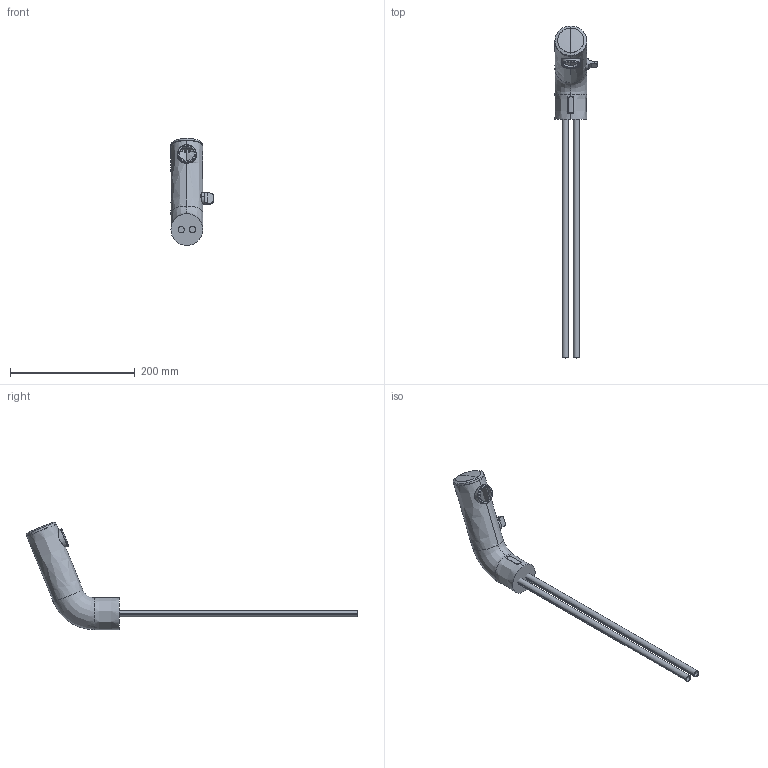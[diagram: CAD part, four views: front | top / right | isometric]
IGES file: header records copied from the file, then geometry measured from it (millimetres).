
Start section:  PTC IGES file: 28022_web.igs
Global section: file name: 28022_web.igs; native system: Creo Parametric by PTC Inc.; preprocessor: 2017380; author: jaj; organization: Unknown; date: 20180620.143200; units: millimetre
Bounding box: 67.5 x 531.65 x 171.67 mm (x, y, z)
Surface area: 92445.8 mm2 (no closed solid volume)
Topology: 0 solids, 0 shells, 46 faces, 338 edges, 406 vertices
Faces by surface type: revolution 36, bspline 10
